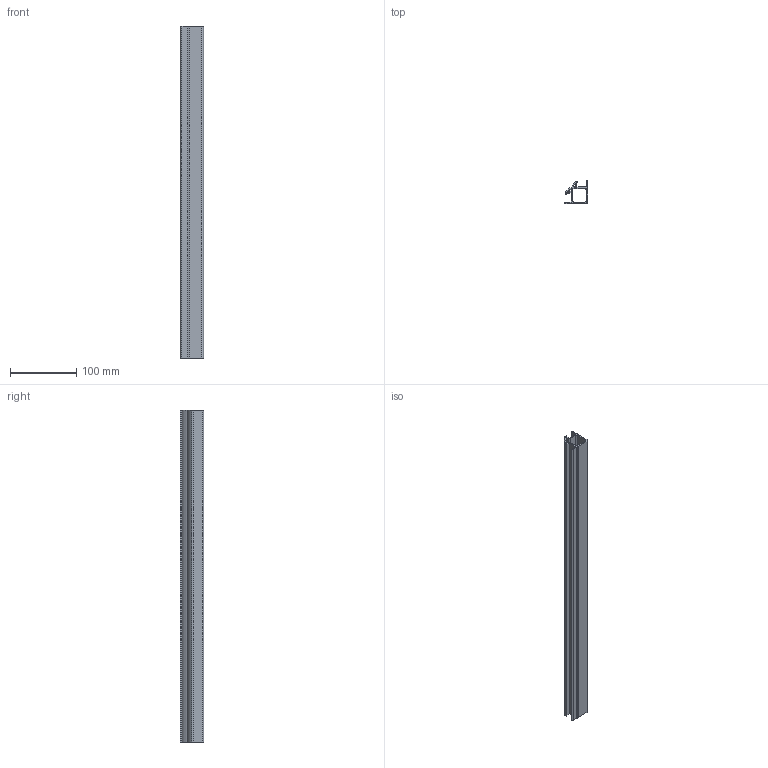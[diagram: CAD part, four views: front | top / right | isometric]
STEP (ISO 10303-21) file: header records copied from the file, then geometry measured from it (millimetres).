
FILE_DESCRIPTION (( 'STEP AP214' ), '1' );
FILE_NAME ('A40715.step', '2024-12-03T16:12:01', ( '' ), ( '' ), 'SwSTEP 2.0', 'SolidWorks 2023', '' );
FILE_SCHEMA (( 'AUTOMOTIVE_DESIGN' ));
Length unit declared in the file: millimetre
Products named in the file (1): A40715
Bounding box: 35 x 35 x 500 mm (x, y, z)
Volume: 138855.3 mm3; surface area: 138354.8 mm2
Topology: 1 solids, 1 shells, 48 faces, 138 edges, 92 vertices
Faces by surface type: plane 32, cylinder 16
Entity records: 1601 total; most frequent: CARTESIAN_POINT 279, ORIENTED_EDGE 276, DIRECTION 268, EDGE_CURVE 138, LINE 106, VECTOR 106, VERTEX_POINT 92, AXIS2_PLACEMENT_3D 81
